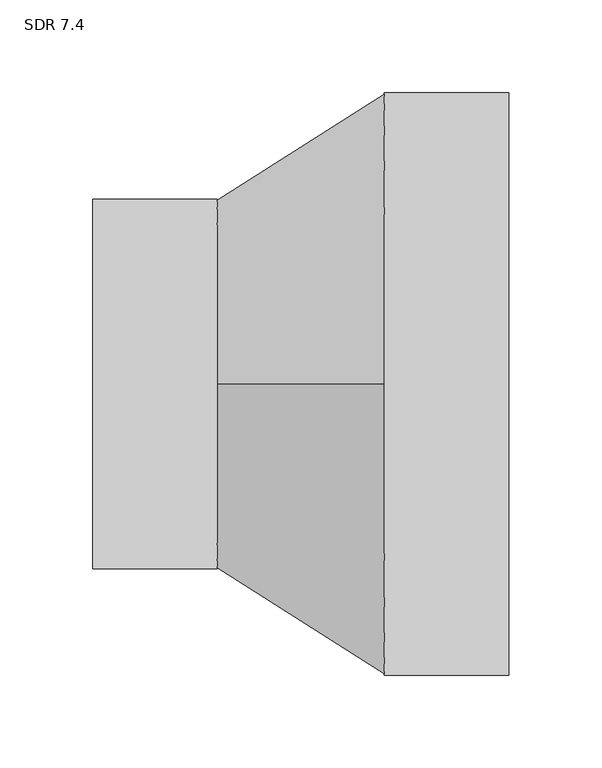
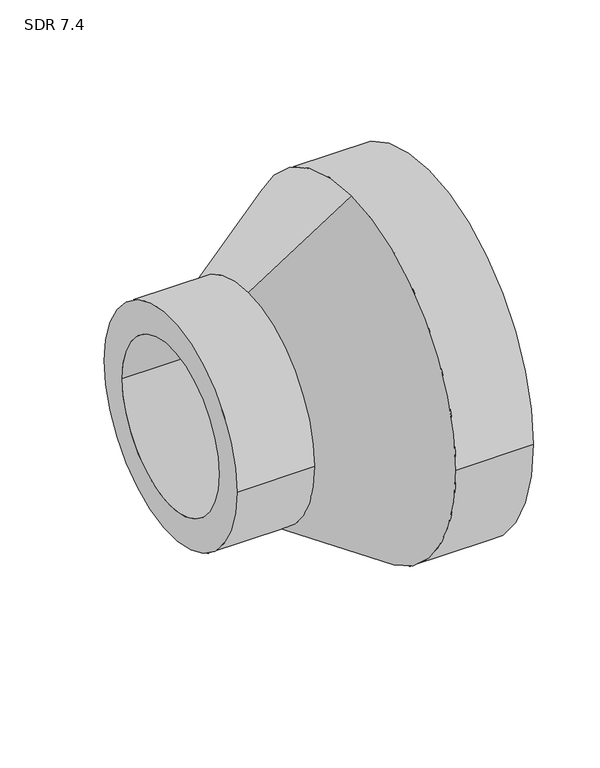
"""IFC4 building model written with IfcOpenShell, lengths in millimetres: pipe fitting geometry, Aquatherm - Reducing Coupling Combined - METRIC : SDR 7.4."""

from ifc_helpers import new_model, si_unit, frame, origin, place, context, project, spatial, polyline, circle_curve, source, transform, mapped, element, save
from ifc_brep_helpers import plane_surface, cylinder_surface, revolved_surface, advanced_brep


def sdr_7_4_ec1fe118(model_context):
    return source(origin(), model_context, "Body", "AdvancedBrep", [
        advanced_brep(
        [(-112.522, -99.949, 0.0), (-112.522, 99.949, 0.0), (-112.522, -72.9357568, 0.0), (-112.522, 72.9357568, 0.0), (-45.0088, 72.9357568, 0.0), (-45.0088, 0.0, 72.9357568), (-45.0088, -72.9357568, 0.0), (-45.0088, 0.0, -72.9357568), (-45.0088, 99.949, 0.0), (-45.0088, 0.0, -99.949), (-45.0088, -99.949, 0.0), (-45.0088, 0.0, 99.949), (112.522, -157.48, 0.0), (112.522, 157.48, 0.0), (112.522, -114.9178378, 0.0), (112.522, 114.9178378, 0.0), (45.0088, -157.48, 0.0), (45.0088, 0.0, -157.48), (45.0088, 157.48, 0.0), (45.0088, 0.0, 157.48), (45.0088, -114.9178378, 0.0), (45.0088, 0.0, 114.9178378), (45.0088, 114.9178378, 0.0), (45.0088, 0.0, -114.9178378)],
        [
            (0, 1, circle_curve(frame((-112.522, 0.0, 0.0), z_axis=(-1.0, 0.0, 0.0), x_axis=(0.0, 1.0, 0.0)), 99.949)),
            (1, 0, circle_curve(frame((-112.522, 0.0, 0.0), z_axis=(-1.0, 0.0, 0.0), x_axis=(0.0, 1.0, 0.0)), 99.949)),
            (2, 3, circle_curve(frame((-112.522, 0.0, 0.0), z_axis=(1.0, 0.0, 0.0), x_axis=(0.0, 1.0, 0.0)), 72.9357568)),
            (3, 2, circle_curve(frame((-112.522, 0.0, 0.0), z_axis=(1.0, 0.0, 0.0), x_axis=(0.0, 1.0, 0.0)), 72.9357568)),
            (3, 4),
            (4, 5, circle_curve(frame((-45.0088, 0.0, 0.0), z_axis=(1.0, 0.0, 0.0), x_axis=(0.0, 1.0, 0.0)), 72.9357568)),
            (5, 6, circle_curve(frame((-45.0088, 0.0, 0.0), z_axis=(1.0, 0.0, 0.0), x_axis=(0.0, 1.0, 0.0)), 72.9357568)),
            (6, 2),
            (6, 7, circle_curve(frame((-45.0088, 0.0, 0.0), z_axis=(1.0, 0.0, 0.0), x_axis=(0.0, 1.0, 0.0)), 72.9357568)),
            (7, 4, circle_curve(frame((-45.0088, 0.0, 0.0), z_axis=(1.0, 0.0, 0.0), x_axis=(0.0, 1.0, 0.0)), 72.9357568)),
            (1, 8),
            (8, 9, circle_curve(frame((-45.0088, 0.0, 0.0), z_axis=(-1.0, 0.0, 0.0), x_axis=(0.0, 1.0, 0.0)), 99.949)),
            (9, 10, circle_curve(frame((-45.0088, 0.0, 0.0), z_axis=(-1.0, 0.0, 0.0), x_axis=(0.0, 1.0, 0.0)), 99.949)),
            (10, 0),
            (10, 11, circle_curve(frame((-45.0088, 0.0, 0.0), z_axis=(-1.0, 0.0, 0.0), x_axis=(0.0, 1.0, 0.0)), 99.949)),
            (11, 8, circle_curve(frame((-45.0088, 0.0, 0.0), z_axis=(-1.0, 0.0, 0.0), x_axis=(0.0, 1.0, 0.0)), 99.949)),
            (12, 13, circle_curve(frame((112.522, 0.0, 0.0), z_axis=(1.0, 0.0, 0.0), x_axis=(0.0, 1.0, 0.0)), 157.48)),
            (13, 12, circle_curve(frame((112.522, 0.0, 0.0), z_axis=(1.0, 0.0, 0.0), x_axis=(0.0, 1.0, 0.0)), 157.48)),
            (14, 15, circle_curve(frame((112.522, 0.0, 0.0), z_axis=(-1.0, 0.0, 0.0), x_axis=(0.0, 1.0, 0.0)), 114.9178378)),
            (15, 14, circle_curve(frame((112.522, 0.0, 0.0), z_axis=(-1.0, 0.0, 0.0), x_axis=(0.0, 1.0, 0.0)), 114.9178378)),
            (12, 16),
            (16, 17, circle_curve(frame((45.0088, 0.0, 0.0), z_axis=(1.0, 0.0, 0.0), x_axis=(0.0, 1.0, 0.0)), 157.48)),
            (17, 18, circle_curve(frame((45.0088, 0.0, 0.0), z_axis=(1.0, 0.0, 0.0), x_axis=(0.0, 1.0, 0.0)), 157.48)),
            (18, 13),
            (18, 19, circle_curve(frame((45.0088, 0.0, 0.0), z_axis=(1.0, 0.0, 0.0), x_axis=(0.0, 1.0, 0.0)), 157.48)),
            (19, 16, circle_curve(frame((45.0088, 0.0, 0.0), z_axis=(1.0, 0.0, 0.0), x_axis=(0.0, 1.0, 0.0)), 157.48)),
            (14, 20),
            (20, 21, circle_curve(frame((45.0088, 0.0, 0.0), z_axis=(-1.0, 0.0, 0.0), x_axis=(0.0, 1.0, 0.0)), 114.9178378)),
            (21, 22, circle_curve(frame((45.0088, 0.0, 0.0), z_axis=(-1.0, 0.0, 0.0), x_axis=(0.0, 1.0, 0.0)), 114.9178378)),
            (22, 15),
            (22, 23, circle_curve(frame((45.0088, 0.0, 0.0), z_axis=(-1.0, 0.0, 0.0), x_axis=(0.0, 1.0, 0.0)), 114.9178378)),
            (23, 20, circle_curve(frame((45.0088, 0.0, 0.0), z_axis=(-1.0, 0.0, 0.0), x_axis=(0.0, 1.0, 0.0)), 114.9178378)),
            (11, 19),
            (17, 9),
            (21, 5),
            (7, 23),
        ],
        [
            plane_surface(frame((-112.522, 72.9357568, 0.0), z_axis=(-1.0, 0.0, 0.0), x_axis=(0.0, 0.0, 1.0))),
            revolved_surface(polyline([(-112.522, 72.9357568, 0.0), (-45.008799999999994, 72.9357568, 0.0)]), (-112.522, 0.0, 0.0), (-1.0, 0.0, 0.0)),
            cylinder_surface(frame((0.0, 0.0, 0.0), z_axis=(1.0, 0.0, 0.0), x_axis=(0.0, 1.0, 0.0)), 99.949),
            plane_surface(frame((112.522, 157.48, 0.0), z_axis=(1.0, 0.0, 0.0), x_axis=(0.0, 0.0, 1.0))),
            cylinder_surface(frame((45.0088, 0.0, 0.0), z_axis=(1.0, 0.0, 0.0), x_axis=(0.0, 1.0, 0.0)), 157.48),
            revolved_surface(polyline([(45.0088, 114.9178378, 0.0), (112.522, 114.9178378, 0.0)]), (0.0, 0.0, 0.0), (-1.0, 0.0, 0.0)),
            revolved_surface(polyline([(45.0088, 0.0, 157.48), (-45.0088, 0.0, 99.949)]), (-687.7815384, 0.0, 0.0), (-1.0, 0.0, 0.0)),
            revolved_surface(polyline([(-45.0088, 0.0, 72.9357568), (45.0088, 0.0, 114.9178378)]), (-687.7815384, 0.0, 0.0), (-1.0, 0.0, 0.0)),
        ],
        [
            (0, [[1, 2], [3, 4]]),
            (1, [[-4, 5, 6, 7, 8]]),
            (1, [[-3, -8, 9, 10, -5]]),
            (2, [[-2, 11, 12, 13, 14]]),
            (2, [[-1, -14, 15, 16, -11]]),
            (3, [[17, 18], [19, 20]]),
            (4, [[-17, 21, 22, 23, 24]]),
            (4, [[-18, -24, 25, 26, -21]]),
            (5, [[-19, 27, 28, 29, 30]]),
            (5, [[-20, -30, 31, 32, -27]]),
            (6, [[33, -25, -23, 34, -12, -16]]),
            (6, [[-33, -15, -13, -34, -22, -26]]),
            (7, [[35, -6, -10, 36, -31, -29]]),
            (7, [[-35, -28, -32, -36, -9, -7]]),
        ],
    ),
    ])


if __name__ == "__main__":
    model = new_model("IFC4")
    model_context = context("Model", 3, world=origin())
    ifc_project = project(units=[si_unit("LENGTHUNIT", "METRE", prefix="MILLI")], contexts=[model_context])
    site = spatial("IfcSite", under=ifc_project)
    building = spatial("IfcBuilding", under=site)
    placement = place(None, origin())
    sdr_7_4_shape = sdr_7_4_ec1fe118(model_context)
    element("IfcPipeFitting", 1, ObjectType="Aquatherm - Reducing Coupling Combined - METRIC : SDR 7.4", at=placement, inside=building, context=model_context, shape_type="MappedRepresentation", body=[
        mapped(sdr_7_4_shape, transform((0.0, 0.0, 0.0), x_axis=(1.0, 0.0, 0.0), y_axis=(0.0, 1.0, 0.0), z_axis=(0.0, 0.0, 1.0))),
    ])
    save(model, "model.ifc")
